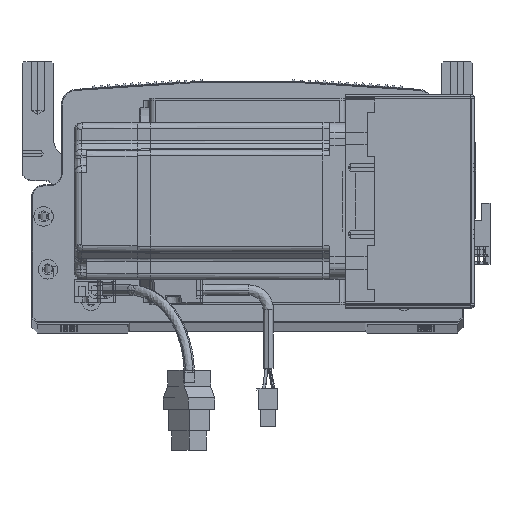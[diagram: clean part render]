
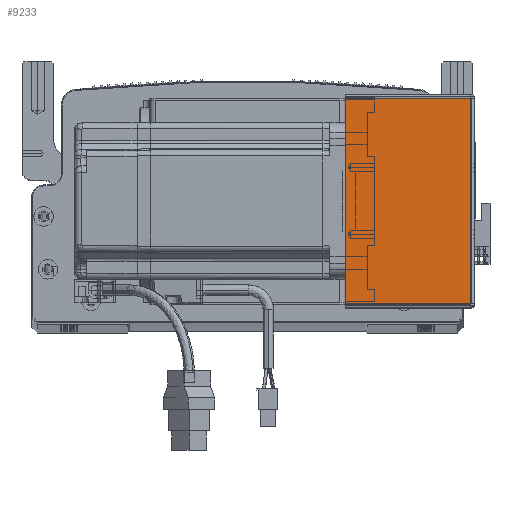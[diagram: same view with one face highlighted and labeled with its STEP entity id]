
A CAD part, top view. The second image highlights one B-rep face of the part: STEP entity #9233.
In plain terms, the highlighted planar face has unit normal (0, 0, 1) as drawn and (0, 0, -1) by its records, which use the part's own axes.
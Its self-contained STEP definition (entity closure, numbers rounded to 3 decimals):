
#166 = EDGE_CURVE ( 'NONE', #29990, #47612, #43904, .T. ) ;
#1770 = DIRECTION ( 'NONE',  ( 0., -1., 0. ) ) ;
#8066 = LINE ( 'NONE', #28638, #42990 ) ;
#9233 = ADVANCED_FACE ( 'NONE', ( #75349 ), #40928, .F. ) ;
#10684 = DIRECTION ( 'NONE',  ( 0., 0., 1. ) ) ;
#12046 = ORIENTED_EDGE ( 'NONE', *, *, #59269, .T. ) ;
#13494 = CARTESIAN_POINT ( 'NONE',  ( 64.5, 105.293, -205.5 ) ) ;
#14550 = LINE ( 'NONE', #61347, #16924 ) ;
#16924 = VECTOR ( 'NONE', #76366, 1000. ) ;
#18516 = DIRECTION ( 'NONE',  ( 1., 0., 0. ) ) ;
#28638 = CARTESIAN_POINT ( 'NONE',  ( 0., 105.293, -205.5 ) ) ;
#29584 = DIRECTION ( 'NONE',  ( 1., 0., 0. ) ) ;
#29990 = VERTEX_POINT ( 'NONE', #33835 ) ;
#33835 = CARTESIAN_POINT ( 'NONE',  ( 0.737, 105.293, -205.5 ) ) ;
#35251 = ORIENTED_EDGE ( 'NONE', *, *, #35595, .T. ) ;
#35595 = EDGE_CURVE ( 'NONE', #29990, #45729, #8066, .T. ) ;
#38434 = EDGE_CURVE ( 'NONE', #47612, #39702, #42445, .T. ) ;
#38617 = DIRECTION ( 'NONE',  ( 1., 0., 0. ) ) ;
#39702 = VERTEX_POINT ( 'NONE', #44403 ) ;
#40144 = AXIS2_PLACEMENT_3D ( 'NONE', #63041, #10684, #18516 ) ;
#40928 = PLANE ( 'NONE',  #40144 ) ;
#42445 = LINE ( 'NONE', #46446, #93681 ) ;
#42990 = VECTOR ( 'NONE', #29584, 1000. ) ;
#43904 = LINE ( 'NONE', #68271, #93932 ) ;
#44403 = CARTESIAN_POINT ( 'NONE',  ( 64.5, 0.707, -205.5 ) ) ;
#45729 = VERTEX_POINT ( 'NONE', #13494 ) ;
#46446 = CARTESIAN_POINT ( 'NONE',  ( 0., 0.707, -205.5 ) ) ;
#47612 = VERTEX_POINT ( 'NONE', #65737 ) ;
#56343 = ORIENTED_EDGE ( 'NONE', *, *, #38434, .F. ) ;
#59269 = EDGE_CURVE ( 'NONE', #45729, #39702, #14550, .T. ) ;
#61347 = CARTESIAN_POINT ( 'NONE',  ( 64.5, 0., -205.5 ) ) ;
#61413 = EDGE_LOOP ( 'NONE', ( #67842, #35251, #12046, #56343 ) ) ;
#63041 = CARTESIAN_POINT ( 'NONE',  ( 0., 0., -205.5 ) ) ;
#65737 = CARTESIAN_POINT ( 'NONE',  ( 0.737, 0.707, -205.5 ) ) ;
#67842 = ORIENTED_EDGE ( 'NONE', *, *, #166, .F. ) ;
#68271 = CARTESIAN_POINT ( 'NONE',  ( 0.737, 0., -205.5 ) ) ;
#75349 = FACE_OUTER_BOUND ( 'NONE', #61413, .T. ) ;
#76366 = DIRECTION ( 'NONE',  ( 0., -1., 0. ) ) ;
#93681 = VECTOR ( 'NONE', #38617, 1000. ) ;
#93932 = VECTOR ( 'NONE', #1770, 1000. ) ;
